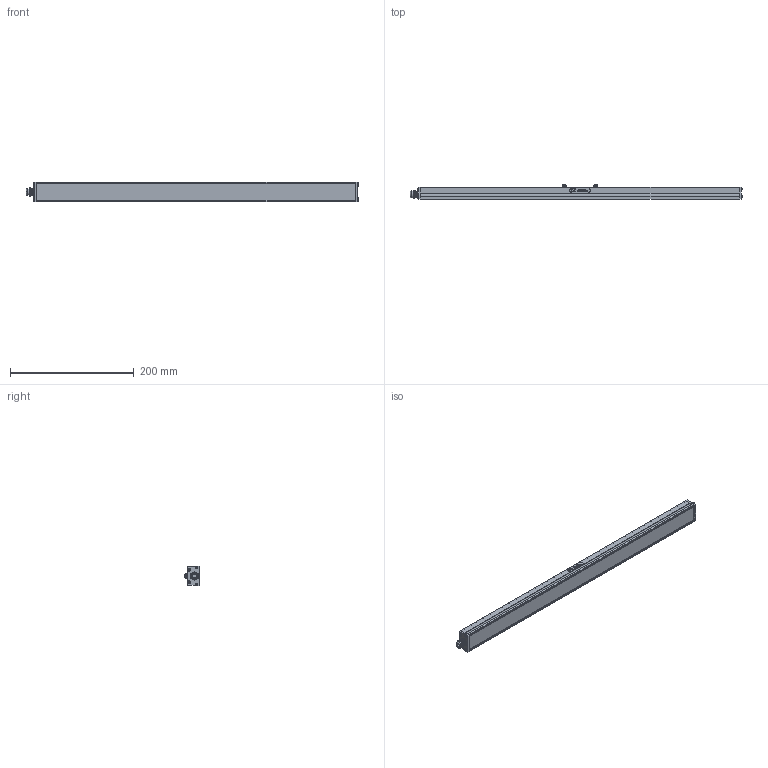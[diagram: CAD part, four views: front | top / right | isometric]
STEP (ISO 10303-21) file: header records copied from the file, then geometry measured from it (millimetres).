
FILE_DESCRIPTION (( 'STEP AP214' ), '1' );
FILE_NAME ('AL116 _NONSEALED__ALL11620.stp', '2021-04-29T14:22:19', ( '' ), ( '' ), 'SwSTEP 2.0', 'SolidWorks 2018', '' );
FILE_SCHEMA (( 'AUTOMOTIVE_DESIGN' ));
Length unit declared in the file: inch
Products named in the file (15): 093474_093474; BH-M4x6; 091064_Model_Dome Fittings_Thread Type and Size(Dome)_M10 x 1.5_Hazardous Location-Explosive Proof(ATEX and EExe Versions)_No_; 091052 (116 126); 090888-XX_090888-20; 10mm Advanced illumination; 090870; HN-M4_90592A016; 10mm Label (116 126)_Default<As Machined>; 10mm Ai; 090869; 10mm Swish_Default<As Machined>; 090878-XX_090878-20; AL116 _NONSEALED__ALL11620; 093469_093469
Assembly tree (24 placements, depth 3):
  AL116 _NONSEALED__ALL11620
    090888-XX_090888-20
    093469_093469  x2
    090869
    090870
    090878-XX_090878-20
    093474_093474  x8
    091064_Model_Dome Fittings_Thread Type and Size(Dome)_M10 x 1.5_Hazardous Location-Explosive Proof(ATEX and EExe Versions)_No_
    091052 (116 126)
      10mm Label (116 126)_Default<As Machined>
      10mm Ai
      10mm Swish_Default<As Machined>
      10mm Advanced illumination
    HN-M4_90592A016  x2
    BH-M4x6  x2
Bounding box: 537.13 x 24.1 x 32.21 mm (x, y, z)
Volume: 101829.8 mm3; surface area: 147435.2 mm2
Topology: 48 solids, 48 shells, 1911 faces, 4942 edges, 3078 vertices
Faces by surface type: cylinder 954, plane 413, cone 362, bspline 122, torus 60
Entity records: 31843 total; most frequent: CARTESIAN_POINT 11151, ORIENTED_EDGE 4280, DIRECTION 3753, EDGE_CURVE 2140, VERTEX_POINT 1366, AXIS2_PLACEMENT_3D 1335, VECTOR 1083, LINE 1083
